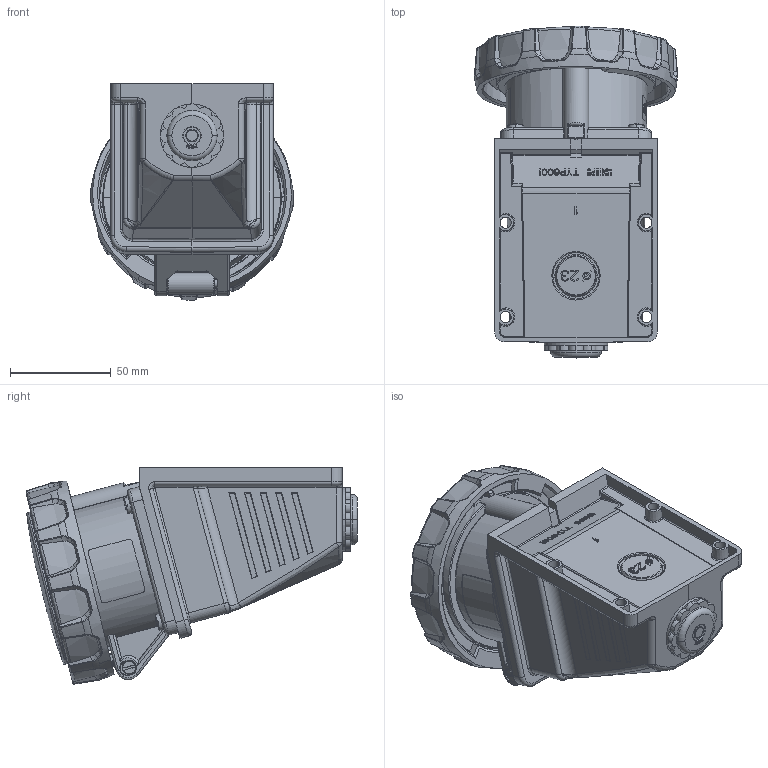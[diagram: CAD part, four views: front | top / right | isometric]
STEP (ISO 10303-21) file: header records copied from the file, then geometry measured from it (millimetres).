
FILE_DESCRIPTION((''),'2;1');
FILE_NAME('32A-H1','2024-07-06T',('Administrator'),(''),'CREO PARAMETRIC BY PTC INC, 2016130','CREO PARAMETRIC BY PTC INC, 2016130','');
FILE_SCHEMA(('CONFIG_CONTROL_DESIGN'));
Products named in the file (1): 32A-H1
Bounding box: 101 x 165.11 x 107.63 mm (x, y, z)
Volume: 641715.9 mm3; surface area: 109627.3 mm2
Topology: 2 solids, 27 shells, 3456 faces, 10151 edges, 6670 vertices
Faces by surface type: plane 1795, cylinder 729, bspline 400, extrusion 223, torus 160, cone 107, sphere 42
Entity records: 150341 total; most frequent: CARTESIAN_POINT 64022, ORIENTED_EDGE 20272, DIRECTION 14392, EDGE_CURVE 10136, VERTEX_POINT 6670, VECTOR 5826, LINE 5603, AXIS2_PLACEMENT_3D 4283
